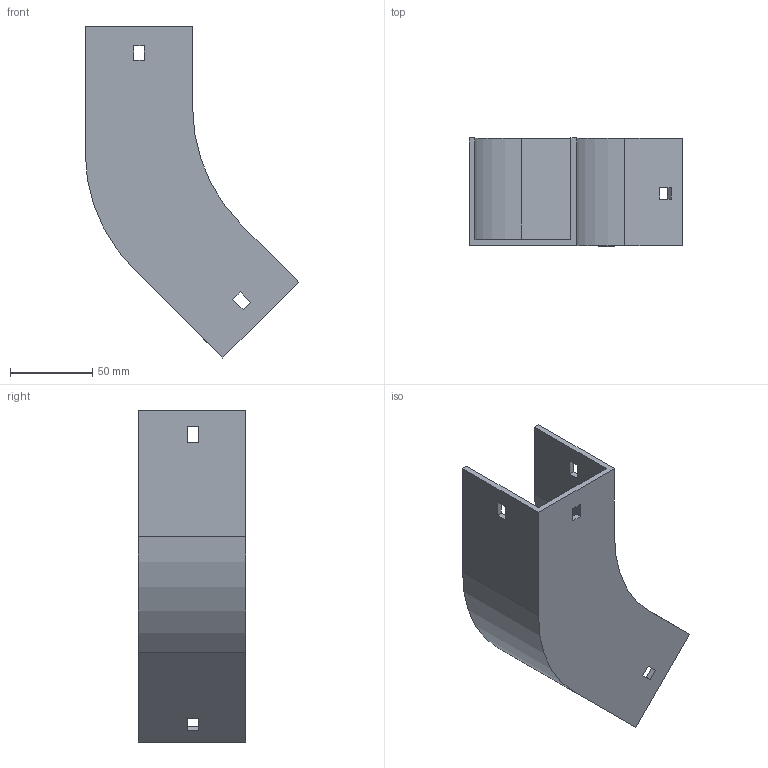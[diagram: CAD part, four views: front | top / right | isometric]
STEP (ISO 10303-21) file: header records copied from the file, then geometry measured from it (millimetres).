
FILE_DESCRIPTION (( 'STEP AP214' ), '1' );
FILE_NAME ('11B1H065.step', '2025-02-21T09:37:56', ( '' ), ( '' ), 'SwSTEP 2.0', 'SolidWorks 2023', '' );
FILE_SCHEMA (( 'AUTOMOTIVE_DESIGN' ));
Length unit declared in the file: millimetre
Products named in the file (1): 11B1H065
Bounding box: 130.14 x 65.5 x 202.38 mm (x, y, z)
Volume: 136008.1 mm3; surface area: 81178.1 mm2
Topology: 1 solids, 1 shells, 42 faces, 120 edges, 80 vertices
Faces by surface type: plane 38, cylinder 4
Entity records: 1399 total; most frequent: CARTESIAN_POINT 243, ORIENTED_EDGE 240, DIRECTION 214, EDGE_CURVE 120, LINE 112, VECTOR 112, VERTEX_POINT 80, EDGE_LOOP 54
